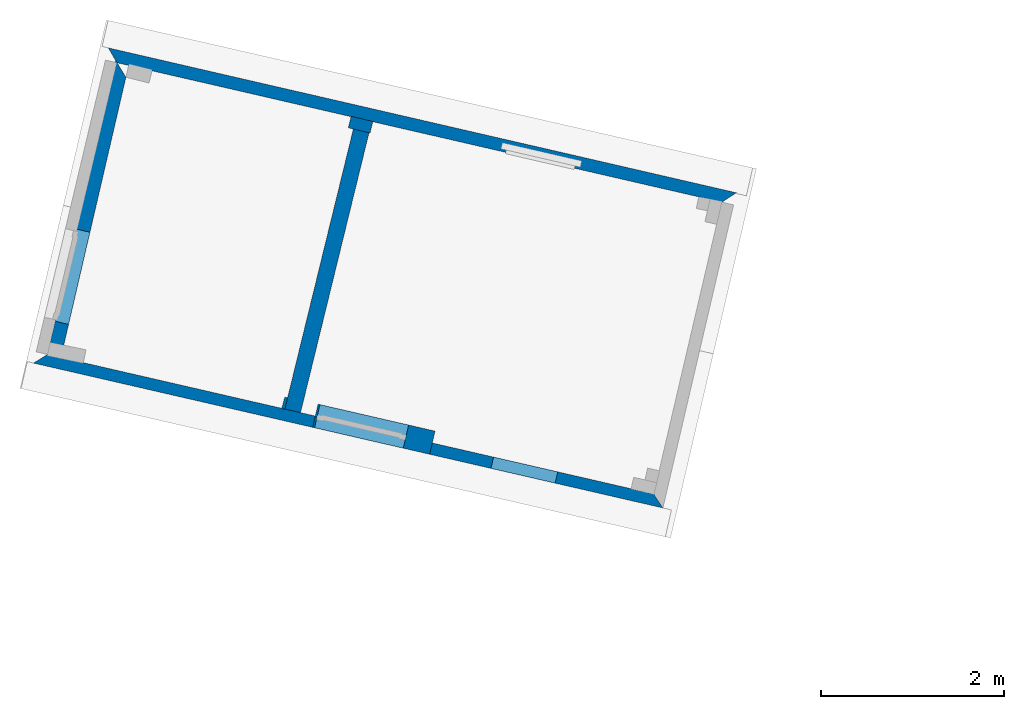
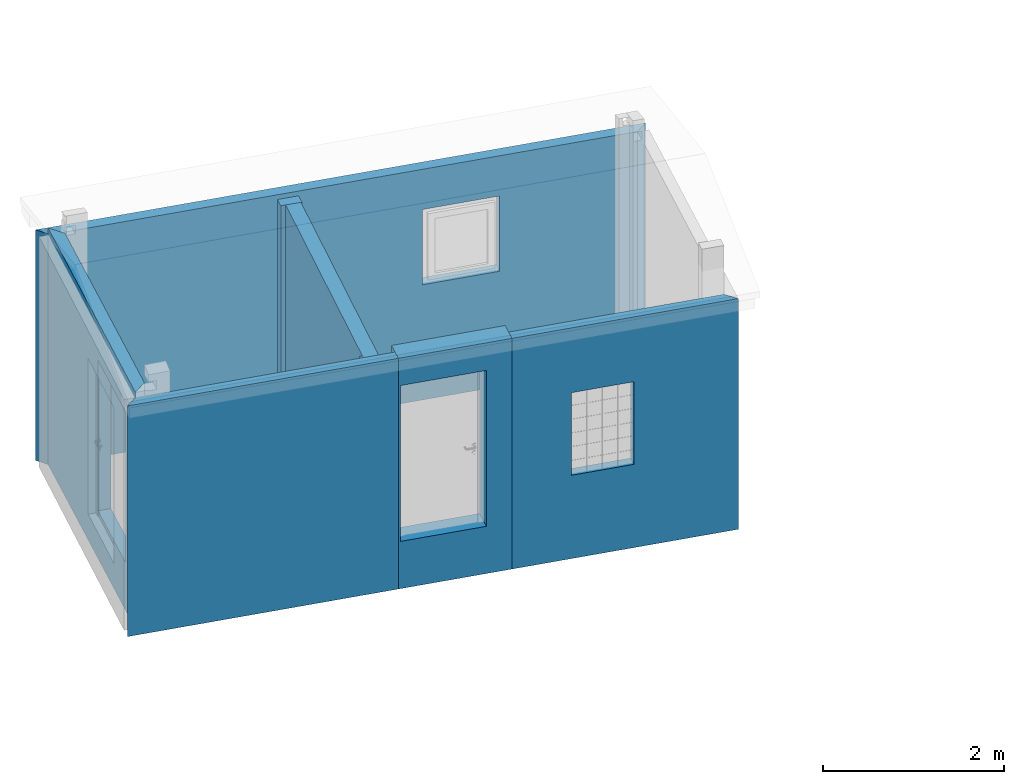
# One storey, part 57 of 196: 8 walls, 4 openings.
"""IFC2X3 building model written with IfcOpenShell, lengths in metres."""

from ifc_helpers import new_model, entity, si_unit, converted_unit, derived_unit, money_unit, direction, frame, origin_with_axes, origin_2d_with_axis, place, context, subcontext, project, spatial, polyline, rectangle, outline, extrude, material, layer, layer_set, layer_usage, type_object, element, save


model = new_model("IFC2X3")

# Units and contexts
model_context = context("Model", 3, precision=1e-05, world=origin_with_axes(), true_north=direction((0.0, 1.0)))
body_context = subcontext(model_context, "Body", "Model", "MODEL_VIEW")
ifc_project = project(units=[si_unit("LENGTHUNIT", "METRE"), si_unit("AREAUNIT", "SQUARE_METRE"), si_unit("VOLUMEUNIT", "CUBIC_METRE"), converted_unit("PLANEANGLEUNIT", "DEGREE", entity("IfcPlaneAngleMeasure", 0.0174532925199), si_unit("PLANEANGLEUNIT", "RADIAN"), dimensions=[0, 0, 0, 0, 0, 0, 0]), money_unit("EUR"), converted_unit("TIMEUNIT", "Year", entity("IfcTimeMeasure", 31556926.0), si_unit("TIMEUNIT", "SECOND"), dimensions=[0, 0, 1, 0, 0, 0, 0]), si_unit("MASSUNIT", "GRAM", prefix="KILO"), si_unit("THERMODYNAMICTEMPERATUREUNIT", "DEGREE_CELSIUS"), si_unit("LUMINOUSINTENSITYUNIT", "LUMEN"), si_unit("ENERGYUNIT", "JOULE", prefix="MEGA"), derived_unit("THERMALCONDUCTANCEUNIT", [(si_unit("POWERUNIT", "WATT"), 1), (si_unit("LENGTHUNIT", "METRE"), -1), (si_unit("THERMODYNAMICTEMPERATUREUNIT", "KELVIN"), -1)]), derived_unit("SPECIFICHEATCAPACITYUNIT", [(si_unit("ENERGYUNIT", "JOULE"), 1), (si_unit("MASSUNIT", "GRAM", prefix="KILO"), -1), (si_unit("THERMODYNAMICTEMPERATUREUNIT", "KELVIN"), -1)]), derived_unit("MASSDENSITYUNIT", [(si_unit("MASSUNIT", "GRAM", prefix="KILO"), 1), (si_unit("VOLUMEUNIT", "CUBIC_METRE"), -1)])], contexts=[model_context])

# Site, building, storey
site_placement = place(None, origin_with_axes())
site = spatial("IfcSite", under=ifc_project, at=site_placement, Name="Gelände", CompositionType="ELEMENT")
building_placement = place(site_placement, origin_with_axes())
building = spatial("IfcBuilding", under=site, at=building_placement, Name="Gebäude", CompositionType="ELEMENT")
storey_placement = place(building_placement, frame((0.0, 0.0, -3.0), z_axis=(0.0, 0.0, 1.0), x_axis=(1.0, 0.0, 0.0)))
storey = spatial("IfcBuildingStorey", under=building, at=storey_placement, Name="KELLERGESCHOSS", CompositionType="ELEMENT", Elevation=-3.0)

# Wall, opening
ifc_material = material(Name="05_ALLGEMEIN - TRAGENDE BAUTEILE")
ifc_layer_1 = layer(ifc_material, 0.15, ventilated="UNKNOWN")
ifc_layer_set_1 = layer_set([ifc_layer_1], Name="05_ALLGEMEIN - TRAGENDE BAUTEILE 0.15")
ifc_layer_usage_1 = layer_usage(ifc_layer_set_1, "AXIS2", "NEGATIVE", 0.15)
wall_type_1 = type_object("IfcWallType", Name="05_ALLGEMEIN - TRAGENDE BAUTEILE 150", PredefinedType="ELEMENTEDWALL")
wall_1_placement = place(storey_placement, frame((-71.5875399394, 70.2260009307, 0.0), z_axis=(0.0, 0.0, 1.0), x_axis=(0.225997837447, 0.974127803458, 0.0)))
wall_1 = element("IfcWallStandardCase", 1, at=wall_1_placement, inside=storey, type_object=wall_type_1, material=ifc_layer_usage_1, Name="Wand-031", ObjectType="ELEMENTEDWALL", context=body_context, shape_type="SweptSolid", body=[
    extrude(outline(polyline([(0.0, 0.0), (3.00659869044, 0.0), (3.15925815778, 0.15), (-0.153272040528, 0.15), (0.0, 0.0)])), origin_with_axes(), (0.0, 0.0, 1.0), 3.19047733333),
])
opening_1_placement = place(wall_1_placement, frame((0.750459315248, 0.0, 0.645), z_axis=(0.0, 0.0, 1.0), x_axis=(1.0, 0.0, 0.0)))
element("IfcOpeningElement", 2, at=opening_1_placement, cuts=wall_1, Name="Tür-024", context=body_context, shape_type="SweptSolid", body=[
    extrude(rectangle(XDim=1.03388561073, YDim=2.03087333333, at=origin_2d_with_axis()), frame((0.0, 0.15, 1.01543666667), z_axis=(0.0, -1.0, 0.0), x_axis=(1.0, 0.0, 0.0)), (0.0, 0.0, 1.0), 0.45),
])

ifc_layer_2 = layer(ifc_material, 0.26, ventilated="UNKNOWN")
ifc_layer_set_2 = layer_set([ifc_layer_2], Name="05_ALLGEMEIN - TRAGENDE BAUTEILE 0.26")
ifc_layer_usage_2 = layer_usage(ifc_layer_set_2, "AXIS2", "NEGATIVE", 0.26)
wall_type_2 = type_object("IfcWallType", Name="05_ALLGEMEIN - TRAGENDE BAUTEILE 260", PredefinedType="ELEMENTEDWALL")
wall_2_placement = place(storey_placement, frame((-68.8666087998, 69.3279139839, 0.0), z_axis=(0.0, 0.0, 1.0), x_axis=(0.97451919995, -0.224304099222, 0.0)))
wall_2 = element("IfcWallStandardCase", 3, at=wall_2_placement, inside=storey, type_object=wall_type_2, material=ifc_layer_usage_2, Name="Wand-028", ObjectType="ELEMENTEDWALL", context=body_context, shape_type="SweptSolid", body=[
    extrude(outline(polyline([(0.0, 0.0), (1.31208236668, 0.0), (1.31208236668, 0.26), (0.0, 0.26), (0.0, 0.0)])), origin_with_axes(), (0.0, 0.0, 1.0), 3.1099946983),
])
opening_2_placement = place(wall_2_placement, frame((0.518451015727, 0.0, 0.637109), z_axis=(0.0, 0.0, 1.0), x_axis=(1.0, 0.0, 0.0)))
element("IfcOpeningElement", 4, at=opening_2_placement, cuts=wall_2, Name="Tür-026", context=body_context, shape_type="SweptSolid", body=[
    extrude(rectangle(XDim=0.994787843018, YDim=2.101288, at=origin_2d_with_axis()), frame((0.0, 0.0909529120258, 1.050644), z_axis=(0.0, 1.0, 0.0), x_axis=(-1.0, 0.0, 0.0)), (0.0, 0.0, 1.0), 0.429047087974),
    extrude(rectangle(XDim=0.994787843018, YDim=2.101288, at=origin_2d_with_axis()), frame((0.0, 0.0909529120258, 1.050644), z_axis=(0.0, -1.0, 0.0), x_axis=(-1.0, 0.0, 0.0)), (0.0, 0.0, 1.0), 0.350952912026),
])

# Wall
ifc_layer_3 = layer(ifc_material, 0.12696716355, ventilated="UNKNOWN")
ifc_layer_set_3 = layer_set([ifc_layer_3], Name="05_ALLGEMEIN - TRAGENDE BAUTEILE 0.126967")
ifc_layer_usage_3 = layer_usage(ifc_layer_set_3, "AXIS2", "NEGATIVE", 0.12696716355)
wall_type_3 = type_object("IfcWallType", Name="05_ALLGEMEIN - TRAGENDE BAUTEILE 127", PredefinedType="ELEMENTEDWALL")
wall_3_placement = place(storey_placement, frame((-71.9176288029, 70.030164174, 0.0), z_axis=(0.0, 0.0, 1.0), x_axis=(0.97451919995, -0.224304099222, 0.0)))
element("IfcWallStandardCase", 5, at=wall_3_placement, inside=storey, type_object=wall_type_3, material=ifc_layer_usage_3, Name="Wand-028", ObjectType="ELEMENTEDWALL", context=body_context, shape_type="SweptSolid", body=[
    extrude(outline(polyline([(0.0, 0.0), (3.13079516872, 0.0), (3.13079516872, 0.12696716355), (0.127840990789, 0.12696716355), (0.0, 0.0)])), origin_with_axes(), (0.0, 0.0, 1.0), 3.1099946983),
])

# Wall, opening
ifc_layer_usage_4 = layer_usage(ifc_layer_set_3, "AXIS2", "NEGATIVE", 0.12696716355)
wall_4_placement = place(storey_placement, frame((-67.5879593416, 69.0336085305, 0.0), z_axis=(0.0, 0.0, 1.0), x_axis=(0.97451919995, -0.224304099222, 0.0)))
wall_4 = element("IfcWallStandardCase", 6, at=wall_4_placement, inside=storey, type_object=wall_type_3, material=ifc_layer_usage_4, Name="Wand-028", ObjectType="ELEMENTEDWALL", context=body_context, shape_type="SweptSolid", body=[
    extrude(outline(polyline([(0.0, 0.0), (2.61512761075, 0.0), (2.48339586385, 0.12696716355), (0.0, 0.12696716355), (0.0, 0.0)])), origin_with_axes(), (0.0, 0.0, 1.0), 3.1099946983),
])
opening_3_placement = place(wall_4_placement, frame((1.04736940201, 0.0, 1.12314), z_axis=(0.0, 0.0, 1.0), x_axis=(1.0, 0.0, 0.0)))
element("IfcOpeningElement", 7, at=opening_3_placement, cuts=wall_4, Name="Fenster-016", context=body_context, shape_type="SweptSolid", body=[
    extrude(rectangle(XDim=0.720305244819, YDim=1.113231, at=origin_2d_with_axis()), frame((0.0, 0.0199732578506, 0.5566155), z_axis=(0.0, 1.0, 0.0), x_axis=(-1.0, 0.0, 0.0)), (0.0, 0.0, 1.0), 0.233961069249),
    extrude(rectangle(XDim=0.720305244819, YDim=1.113231, at=origin_2d_with_axis()), frame((0.0, 0.0199732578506, 0.5566155), z_axis=(0.0, -1.0, 0.0), x_axis=(-1.0, 0.0, 0.0)), (0.0, 0.0, 1.0), 0.1469404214),
])

# Walls
ifc_layer_4 = layer(ifc_material, 0.13, ventilated="UNKNOWN")
ifc_layer_set_4 = layer_set([ifc_layer_4], Name="05_ALLGEMEIN - TRAGENDE BAUTEILE 0.13")
ifc_layer_usage_5 = layer_usage(ifc_layer_set_4, "AXIS2", "NEGATIVE", 0.0)
wall_type_4 = type_object("IfcWallType", Name="05_ALLGEMEIN - TRAGENDE BAUTEILE 130", PredefinedType="ELEMENTEDWALL")
wall_5_placement = place(storey_placement, frame((-69.1713122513, 69.6595667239, 0.0), z_axis=(0.0, 0.0, 1.0), x_axis=(0.966062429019, -0.258308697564, 0.0)))
element("IfcWallStandardCase", 8, at=wall_5_placement, inside=storey, type_object=wall_type_4, material=ifc_layer_usage_5, Name="Wand-028", ObjectType="ELEMENTEDWALL", context=body_context, shape_type="SweptSolid", body=[
    extrude(outline(polyline([(0.0, -0.13), (0.0343541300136, -0.13), (0.0315911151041, 0.0), (0.0, 0.0), (0.0, -0.13)])), origin_with_axes(), (0.0, 0.0, 1.0), 3.046138),
])
ifc_layer_usage_6 = layer_usage(ifc_layer_set_4, "AXIS2", "NEGATIVE", 0.13)
wall_6_placement = place(storey_placement, frame((-68.4772378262, 72.6013690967, 0.0), z_axis=(0.0, 0.0, 1.0), x_axis=(0.972798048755, -0.23165482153, 0.0)))
element("IfcWallStandardCase", 9, at=wall_6_placement, inside=storey, type_object=wall_type_4, material=ifc_layer_usage_6, Name="Wand-028", ObjectType="ELEMENTEDWALL", context=body_context, shape_type="SweptSolid", body=[
    extrude(outline(polyline([(0.0, 0.0), (0.244304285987, 0.0), (0.244304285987, 0.13), (0.0, 0.13), (0.0, 0.0)])), origin_with_axes(), (0.0, 0.0, 1.0), 3.046138),
])
ifc_layer_5 = layer(ifc_material, 0.175573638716, ventilated="UNKNOWN")
ifc_layer_set_5 = layer_set([ifc_layer_5], Name="05_ALLGEMEIN - TRAGENDE BAUTEILE 0.175574")
ifc_layer_usage_7 = layer_usage(ifc_layer_set_5, "AXIS2", "NEGATIVE", 0.175573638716)
wall_type_5 = type_object("IfcWallType", Name="05_ALLGEMEIN - TRAGENDE BAUTEILE 176", PredefinedType="ELEMENTEDWALL")
wall_7_placement = place(storey_placement, frame((-69.0300046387, 69.3655226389, 0.0), z_axis=(0.0, 0.0, 1.0), x_axis=(0.237722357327, 0.971333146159, 0.0)))
element("IfcWallStandardCase", 10, at=wall_7_placement, inside=storey, type_object=wall_type_5, material=ifc_layer_usage_7, Name="Wand-028", ObjectType="ELEMENTEDWALL", context=body_context, shape_type="SweptSolid", body=[
    extrude(outline(polyline([(0.126979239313, 0.0), (3.40294653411, 0.0), (3.40059757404, 0.175573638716), (0.124557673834, 0.175573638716), (0.126979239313, 0.0)])), origin_with_axes(), (0.0, 0.0, 1.0), 3.046138),
])

# Wall, opening
ifc_layer_6 = layer(ifc_material, 0.136641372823, ventilated="UNKNOWN")
ifc_layer_set_6 = layer_set([ifc_layer_6], Name="05_ALLGEMEIN - TRAGENDE BAUTEILE 0.136641")
ifc_layer_usage_8 = layer_usage(ifc_layer_set_6, "AXIS2", "NEGATIVE", 0.136641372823)
wall_type_6 = type_object("IfcWallType", Name="05_ALLGEMEIN - TRAGENDE BAUTEILE 137", PredefinedType="ELEMENTEDWALL")
wall_8_placement = place(storey_placement, frame((-71.1313780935, 73.3420522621, 0.0), z_axis=(0.0, 0.0, 1.0), x_axis=(0.974426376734, -0.224707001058, 0.0)))
wall_8 = element("IfcWallStandardCase", 11, at=wall_8_placement, inside=storey, type_object=wall_type_6, material=ifc_layer_usage_8, Name="Wand-028", ObjectType="ELEMENTEDWALL", context=body_context, shape_type="SweptSolid", body=[
    extrude(outline(polyline([(0.126969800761, 0.0), (6.91279870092, 0.0), (7.04526856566, 0.136641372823), (0.000880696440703, 0.136641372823), (0.126969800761, 0.0)])), origin_with_axes(), (0.0, 0.0, 1.0), 3.1099946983),
])
opening_4_placement = place(wall_8_placement, frame((4.87509581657, 0.0, 1.55305066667), z_axis=(0.0, 0.0, 1.0), x_axis=(1.0, 0.0, 0.0)))
element("IfcOpeningElement", 12, at=opening_4_placement, cuts=wall_8, Name="Fenster-016", context=body_context, shape_type="SweptSolid", body=[
    extrude(rectangle(XDim=0.890044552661, YDim=1.014707, at=origin_2d_with_axis()), frame((0.0, 0.095689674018, 0.5073535), z_axis=(0.0, 1.0, 0.0), x_axis=(-1.0, 0.0, 0.0)), (0.0, 0.0, -1.0), 0.232331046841),
    extrude(rectangle(XDim=0.890044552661, YDim=1.014707, at=origin_2d_with_axis()), frame((0.0, 0.095689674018, 0.5073535), z_axis=(0.0, -1.0, 0.0), x_axis=(-1.0, 0.0, 0.0)), (0.0, 0.0, -1.0), 0.177593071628),
])

save(model, "model.ifc")
